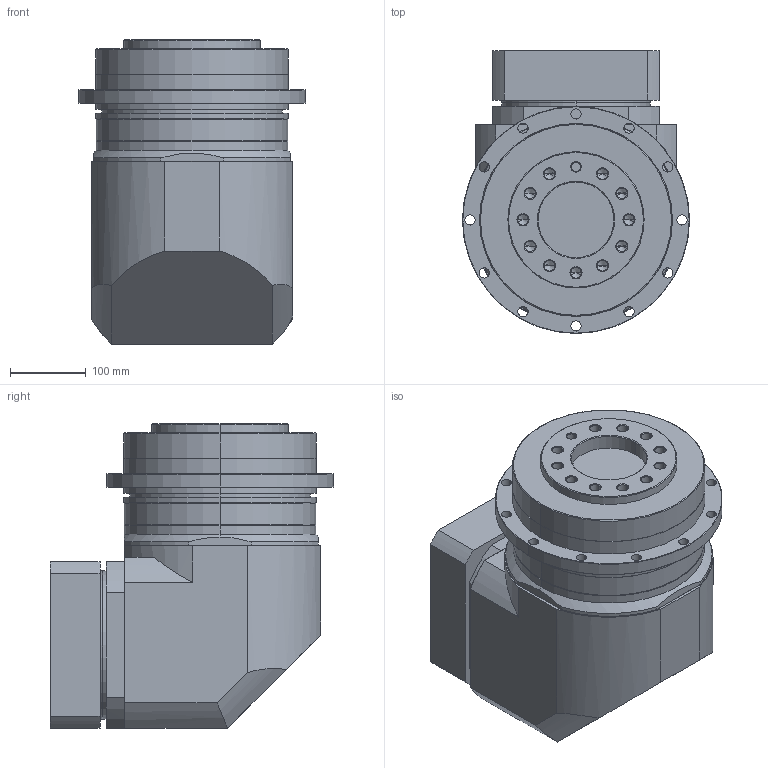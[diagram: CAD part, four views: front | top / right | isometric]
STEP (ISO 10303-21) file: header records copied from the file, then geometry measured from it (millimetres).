
FILE_DESCRIPTION (( 'STEP AP214' ), '1' );
FILE_NAME ('EVT255-L1-P2 35¼ü10-114.3-200-M12.STEP', '2022-02-09T08:36:13', ( 'Admin' ), ( '' ), 'SwSTEP 2.0', 'SolidWorks 2018', '' );
FILE_SCHEMA (( 'AUTOMOTIVE_DESIGN' ));
Length unit declared in the file: millimetre
Products named in the file (1): EVT255-L1-P2 35瑩10-114.3-200-M12
Bounding box: 300 x 374 x 402 mm (x, y, z)
Volume: 25524194.6 mm3; surface area: 681608.9 mm2
Topology: 1 solids, 1 shells, 245 faces, 586 edges, 350 vertices
Faces by surface type: cylinder 111, cone 73, plane 59, torus 2
Entity records: 7389 total; most frequent: CARTESIAN_POINT 1358, DIRECTION 1290, ORIENTED_EDGE 1128, EDGE_CURVE 564, AXIS2_PLACEMENT_3D 514, VERTEX_POINT 350, EDGE_LOOP 298, CIRCLE 268
